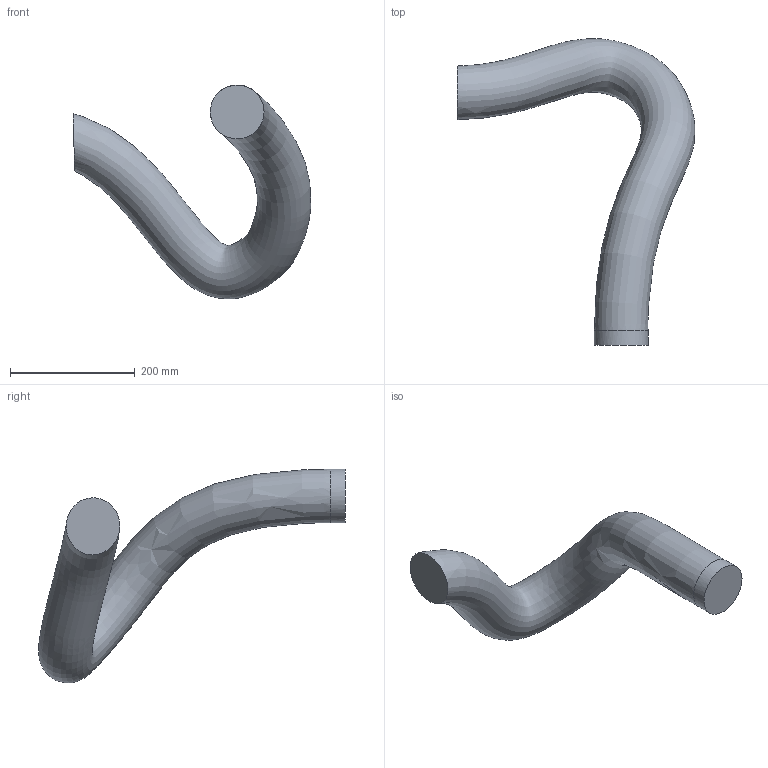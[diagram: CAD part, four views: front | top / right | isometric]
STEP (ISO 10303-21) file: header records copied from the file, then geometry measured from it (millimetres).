
FILE_DESCRIPTION (( 'STEP AP214' ), '1' );
FILE_NAME ('IRB77X0_All-350_OC_00_LINK05_CABLE.step', '2026-01-28T09:36:48', ( '' ), ( '' ), 'SwSTEP 2.0', 'SolidWorks 2024', '' );
FILE_SCHEMA (( 'AUTOMOTIVE_DESIGN' ));
Length unit declared in the file: millimetre
Products named in the file (1): IRB77X0_All-350_OC_00_LINK05_CABLE
Bounding box: 380.96 x 491.52 x 342.67 mm (x, y, z)
Volume: 5382106.7 mm3; surface area: 262719.9 mm2
Topology: 1 solids, 1 shells, 4 faces, 6 edges, 4 vertices
Faces by surface type: plane 2, bspline 1, cylinder 1
Full cylindrical faces by diameter (mm): 86 x1
Entity records: 50290 total; most frequent: CARTESIAN_POINT 50213, DIRECTION 10, ORIENTED_EDGE 6, FACE_OUTER_BOUND 6, EDGE_LOOP 6, AXIS2_PLACEMENT_3D 5, ADVANCED_FACE 4, EDGE_CURVE 3
